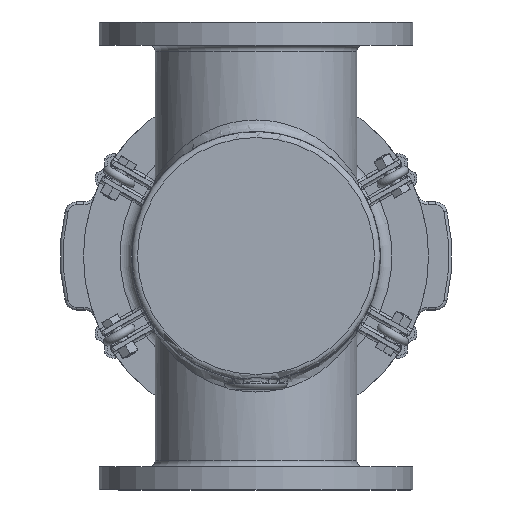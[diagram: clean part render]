
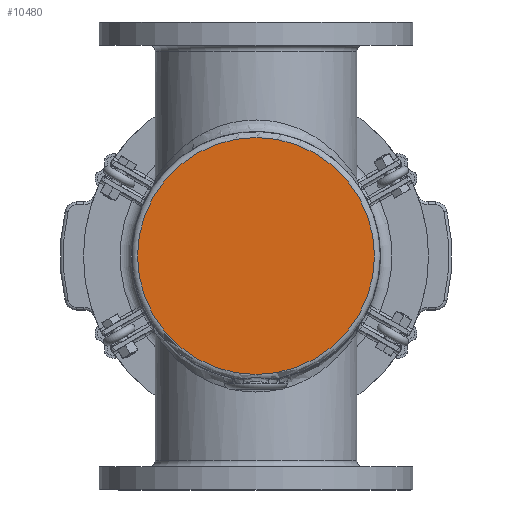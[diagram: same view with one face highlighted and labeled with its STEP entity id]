
A CAD part, front view. The second image highlights one B-rep face of the part: STEP entity #10480.
In plain terms, the highlighted planar face has unit normal (0, -1, 0).
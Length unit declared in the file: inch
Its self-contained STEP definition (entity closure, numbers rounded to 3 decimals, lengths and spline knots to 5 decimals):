
#1315=PLANE('',#11178);
#2064=FACE_OUTER_BOUND('',#2741,.T.);
#2741=EDGE_LOOP('',(#7028));
#3816=CIRCLE('',#11174,5.0625);
#4529=VERTEX_POINT('',#16253);
#5494=EDGE_CURVE('',#4529,#4529,#3816,.T.);
#7028=ORIENTED_EDGE('',*,*,#5494,.F.);
#10480=ADVANCED_FACE('',(#2064),#1315,.F.);
#11174=AXIS2_PLACEMENT_3D('',#16254,#12592,#12593);
#11178=AXIS2_PLACEMENT_3D('',#16259,#12600,#12601);
#12592=DIRECTION('center_axis',(0.,1.,0.));
#12593=DIRECTION('ref_axis',(1.,0.,0.));
#12600=DIRECTION('center_axis',(0.,1.,0.));
#12601=DIRECTION('ref_axis',(0.,0.,1.));
#16253=CARTESIAN_POINT('',(-5.0625,0.,0.));
#16254=CARTESIAN_POINT('Origin',(0.,0.,0.));
#16259=CARTESIAN_POINT('Origin',(0.,0.,0.));
